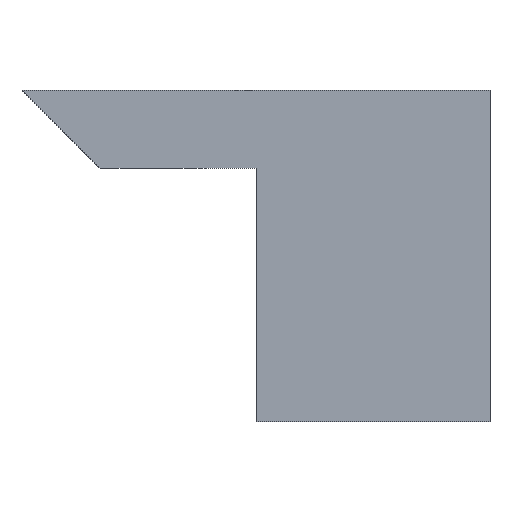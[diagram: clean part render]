
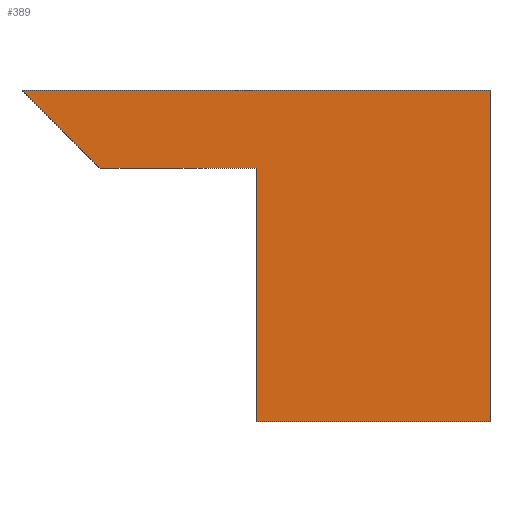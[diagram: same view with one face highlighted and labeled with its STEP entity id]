
A CAD part, front view. The second image highlights one B-rep face of the part: STEP entity #389.
In plain terms, the highlighted planar face has unit normal (0, -1, 0).
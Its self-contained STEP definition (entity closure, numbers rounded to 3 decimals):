
#67=FACE_OUTER_BOUND('',#87,.T.);
#87=EDGE_LOOP('',(#335,#336,#337,#338,#339,#340));
#103=LINE('',#584,#133);
#125=LINE('',#675,#155);
#126=LINE('',#679,#156);
#129=LINE('',#684,#159);
#130=LINE('',#685,#160);
#131=LINE('',#686,#161);
#133=VECTOR('',#464,10.);
#155=VECTOR('',#562,10.);
#156=VECTOR('',#565,10.);
#159=VECTOR('',#570,10.);
#160=VECTOR('',#571,10.);
#161=VECTOR('',#572,10.);
#163=VERTEX_POINT('',#582);
#164=VERTEX_POINT('',#583);
#195=VERTEX_POINT('',#673);
#196=VERTEX_POINT('',#677);
#197=VERTEX_POINT('',#678);
#198=VERTEX_POINT('',#683);
#199=EDGE_CURVE('',#163,#164,#103,.T.);
#245=EDGE_CURVE('',#163,#195,#125,.T.);
#246=EDGE_CURVE('',#196,#197,#126,.T.);
#249=EDGE_CURVE('',#198,#195,#129,.T.);
#250=EDGE_CURVE('',#198,#196,#130,.T.);
#251=EDGE_CURVE('',#164,#197,#131,.T.);
#335=ORIENTED_EDGE('',*,*,#199,.F.);
#336=ORIENTED_EDGE('',*,*,#245,.T.);
#337=ORIENTED_EDGE('',*,*,#249,.F.);
#338=ORIENTED_EDGE('',*,*,#250,.T.);
#339=ORIENTED_EDGE('',*,*,#246,.T.);
#340=ORIENTED_EDGE('',*,*,#251,.F.);
#369=PLANE('',#456);
#389=ADVANCED_FACE('',(#67),#369,.T.);
#456=AXIS2_PLACEMENT_3D('',#682,#568,#569);
#464=DIRECTION('',(-0.707,0.,0.707));
#562=DIRECTION('',(1.,0.,0.));
#565=DIRECTION('',(0.,0.,1.));
#568=DIRECTION('center_axis',(0.,-1.,0.));
#569=DIRECTION('ref_axis',(1.,0.,0.));
#570=DIRECTION('',(0.,0.,1.));
#571=DIRECTION('',(1.,0.,0.));
#572=DIRECTION('',(1.,0.,0.));
#582=CARTESIAN_POINT('',(2.,0.,10.5));
#583=CARTESIAN_POINT('',(0.,0.,12.5));
#584=CARTESIAN_POINT('',(4.125,0.,8.375));
#673=CARTESIAN_POINT('',(6.,0.,10.5));
#675=CARTESIAN_POINT('',(0.,0.,10.5));
#677=CARTESIAN_POINT('',(12.,0.,4.));
#678=CARTESIAN_POINT('',(12.,0.,12.5));
#679=CARTESIAN_POINT('',(12.,0.,4.));
#682=CARTESIAN_POINT('Origin',(6.,0.,4.));
#683=CARTESIAN_POINT('',(6.,0.,4.));
#684=CARTESIAN_POINT('',(6.,0.,4.));
#685=CARTESIAN_POINT('',(6.,0.,4.));
#686=CARTESIAN_POINT('',(0.,0.,12.5));
